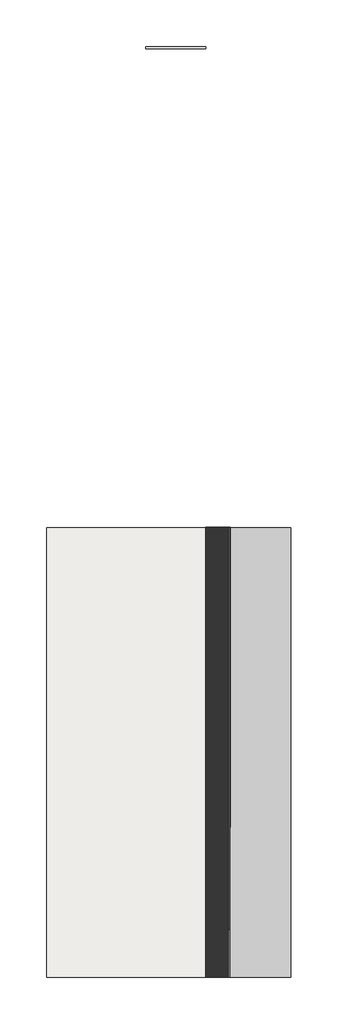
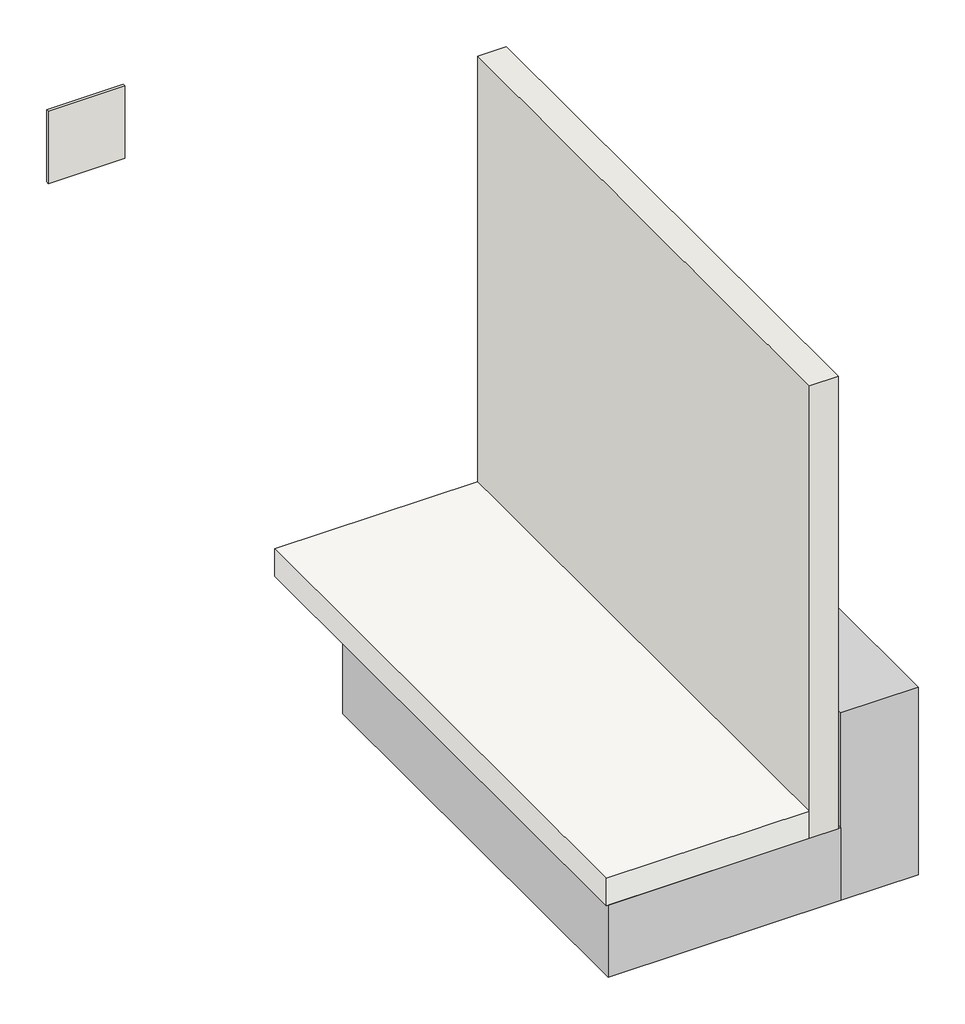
# One storey: 2 walls, 1 proxy, 1 slab.
"""IFC4 building model written with IfcOpenShell, lengths in millimetres."""

from ifc_helpers import new_model, si_unit, frame, origin, place, context, project, spatial, polyline, outline, extrude, transform, mapped, element, save
from components import generic_models_c4fbfd9c

model = new_model("IFC4")

# Units and contexts
model_context = context("Model", 3, world=origin())
ifc_project = project(units=[si_unit("LENGTHUNIT", "METRE", prefix="MILLI")], contexts=[model_context])

# Site, building, storey
site = spatial("IfcSite", under=ifc_project)
building = spatial("IfcBuilding", under=site)
storey = spatial("IfcBuildingStorey", under=building, Name="ARQ Térreo", Elevation=-2.523798)

# Proxy
placement = place(None, origin())
generic_models_shape = generic_models_c4fbfd9c(model_context)
element("IfcBuildingElementProxy", 1, Name="IMPER:IMPER:433934 : IMPER:IMPER:433934", ObjectType="IMPER:IMPER:433934 : IMPER:IMPER:433934", at=placement, inside=storey, context=model_context, shape_type="MappedRepresentation", body=[
    mapped(generic_models_shape, transform((0.0, 0.0, 0.0), x_axis=(1.0, 0.0, 0.0), y_axis=(0.0, 1.0, 0.0), z_axis=(0.0, 0.0, 1.0))),
])

# Slab
element("IfcSlab", 2, ObjectType="Genérico 150 mm", at=placement, inside=storey, context=model_context, shape_type="SweptSolid", body=[
    extrude(outline(polyline([(-1562.7804486, 145.8700195), (-501.9704105, 145.8700195), (-501.9704105, -2854.1299805), (-1562.7804486, -2854.1299805), (-1562.7804486, 145.8700195)])), frame((0.0, 0.0, -2.523798), z_axis=(0.0, 0.0, 1.0), x_axis=(1.0, 0.0, 0.0)), (0.0, 0.0, 1.0), 150.0),
])

# Walls
element("IfcWall", 3, ObjectType="Parede básica:Parede Concreto", at=placement, inside=storey, context=model_context, shape_type="SweptSolid", body=[
    extrude(outline(polyline([(-501.9704105, -2854.1299805), (-501.9704105, 145.8700195), (-351.9704105, 145.8700195), (-351.9704105, -2854.1299805), (-501.9704105, -2854.1299805)])), frame((0.0, 0.0, -2.523798), z_axis=(0.0, 0.0, 1.0), x_axis=(1.0, 0.0, 0.0)), (0.0, 0.0, 1.0), 2500.0),
])
element("IfcWall", 4, ObjectType="IMPV_VITKOTE", at=placement, inside=storey, context=model_context, shape_type="SweptSolid", body=[
    extrude(outline(polyline([(-901.9704105, 3352.8700195), (-501.9704105, 3352.8700195), (-501.9704105, 3338.8700195), (-901.9704105, 3338.8700195), (-901.9704105, 3352.8700195)])), frame((0.0, 0.0, -2.523798), z_axis=(0.0, 0.0, 1.0), x_axis=(1.0, 0.0, 0.0)), (0.0, 0.0, 1.0), 400.0),
])

save(model, "model.ifc")
